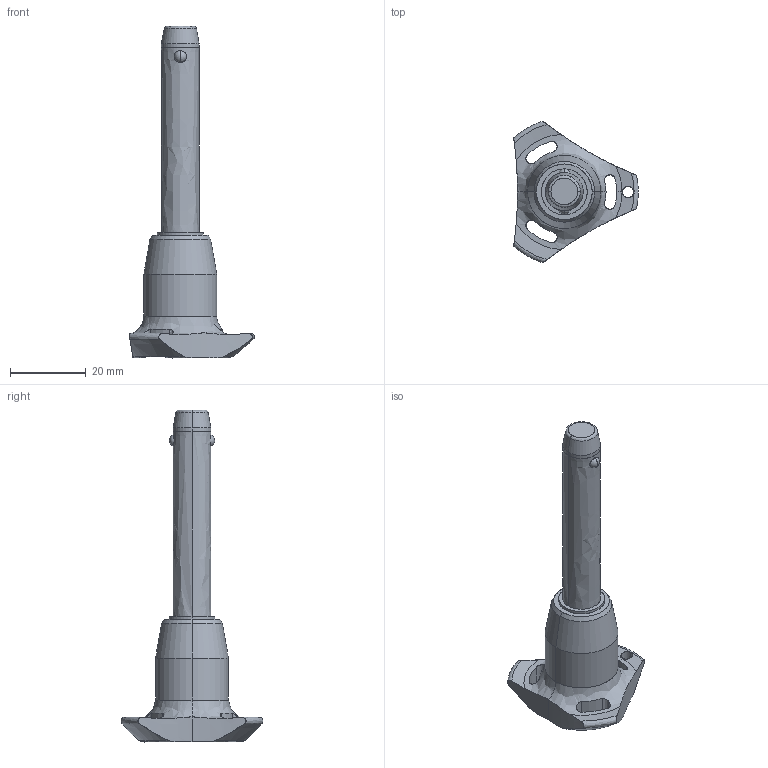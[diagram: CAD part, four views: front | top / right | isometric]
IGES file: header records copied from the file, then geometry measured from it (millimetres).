
Start section: SolidWorks IGES file using analytic representation for surfaces
Global section: file name: C:\Users\ianosborn\Desktop\QR1716_v2\QR1716_v2_20251114_IGES\QR1716.M10-045-T.igs; native system: SolidWorks 2019; preprocessor: SolidWorks 2019; author: IanOsborn; date: 251113.103303; units: millimetre
Bounding box: 33 x 37.51 x 87.9 mm (x, y, z)
Surface area: 5578.4 mm2 (no closed solid volume)
Topology: 0 solids, 0 shells, 68 faces, 1354 edges, 1350 vertices
Faces by surface type: revolution 52, bspline 16
